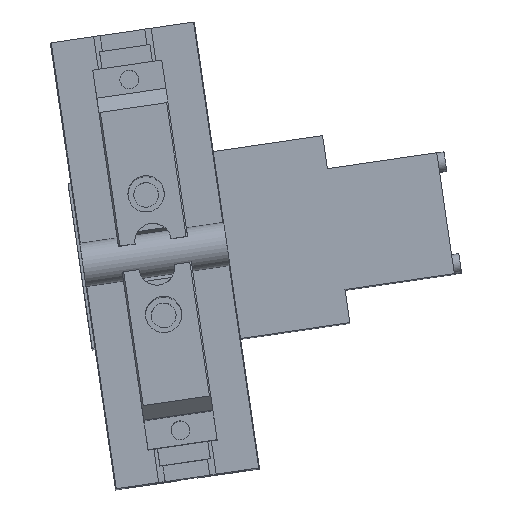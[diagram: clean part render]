
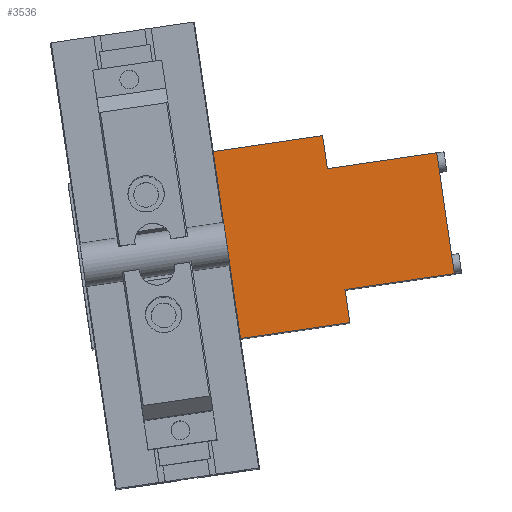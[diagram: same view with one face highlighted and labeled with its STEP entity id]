
A CAD part, top view. The second image highlights one B-rep face of the part: STEP entity #3536.
In plain terms, the highlighted planar face has unit normal (0, 0.005, 1).
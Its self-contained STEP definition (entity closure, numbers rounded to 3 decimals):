
#3439=CARTESIAN_POINT('',(195.801,123.6,198.16));
#3440=VERTEX_POINT('',#3439);
#3441=CARTESIAN_POINT('',(120.596,112.63,198.201));
#3442=VERTEX_POINT('',#3441);
#3443=CARTESIAN_POINT('',(195.801,123.6,198.16));
#3444=DIRECTION('',(-0.99,-0.144,0.001));
#3445=VECTOR('',#3444,76.);
#3446=LINE('',#3443,#3445);
#3447=EDGE_CURVE('',#3440,#3442,#3446,.T.);
#3474=CARTESIAN_POINT('',(195.801,123.6,198.16));
#3475=DIRECTION('',(0.,0.006,1.));
#3476=DIRECTION('',(-0.99,-0.144,0.001));
#3477=AXIS2_PLACEMENT_3D('',#3474,#3475,#3476);
#3478=PLANE('',#3477);
#3479=CARTESIAN_POINT('',(207.925,40.481,198.622));
#3480=VERTEX_POINT('',#3479);
#3481=CARTESIAN_POINT('',(132.721,29.511,198.662));
#3482=VERTEX_POINT('',#3481);
#3483=CARTESIAN_POINT('',(207.925,40.481,198.622));
#3484=DIRECTION('',(-0.99,-0.144,0.001));
#3485=VECTOR('',#3484,76.);
#3486=LINE('',#3483,#3485);
#3487=EDGE_CURVE('',#3480,#3482,#3486,.T.);
#3488=ORIENTED_EDGE('',*,*,#3487,.F.);
#3489=CARTESIAN_POINT('',(195.801,123.6,198.16));
#3490=DIRECTION('',(0.144,-0.99,0.005));
#3491=VECTOR('',#3490,84.);
#3492=LINE('',#3489,#3491);
#3493=EDGE_CURVE('',#3440,#3480,#3492,.T.);
#3494=ORIENTED_EDGE('',*,*,#3493,.F.);
#3495=ORIENTED_EDGE('',*,*,#3447,.T.);
#3496=CARTESIAN_POINT('',(117.277,135.389,198.074));
#3497=VERTEX_POINT('',#3496);
#3498=CARTESIAN_POINT('',(120.596,112.63,198.201));
#3499=DIRECTION('',(-0.144,0.99,-0.005));
#3500=VECTOR('',#3499,23.);
#3501=LINE('',#3498,#3500);
#3502=EDGE_CURVE('',#3442,#3497,#3501,.T.);
#3503=ORIENTED_EDGE('',*,*,#3502,.T.);
#3504=CARTESIAN_POINT('',(42.072,124.419,198.115));
#3505=VERTEX_POINT('',#3504);
#3506=CARTESIAN_POINT('',(42.072,124.419,198.115));
#3507=DIRECTION('',(0.99,0.144,-0.001));
#3508=VECTOR('',#3507,76.);
#3509=LINE('',#3506,#3508);
#3510=EDGE_CURVE('',#3505,#3497,#3509,.T.);
#3511=ORIENTED_EDGE('',*,*,#3510,.F.);
#3512=CARTESIAN_POINT('',(60.836,-4.217,198.829));
#3513=VERTEX_POINT('',#3512);
#3514=CARTESIAN_POINT('',(60.836,-4.217,198.829));
#3515=DIRECTION('',(-0.144,0.99,-0.005));
#3516=VECTOR('',#3515,130.);
#3517=LINE('',#3514,#3516);
#3518=EDGE_CURVE('',#3513,#3505,#3517,.T.);
#3519=ORIENTED_EDGE('',*,*,#3518,.F.);
#3520=CARTESIAN_POINT('',(136.041,6.752,198.789));
#3521=VERTEX_POINT('',#3520);
#3522=CARTESIAN_POINT('',(60.836,-4.217,198.829));
#3523=DIRECTION('',(0.99,0.144,-0.001));
#3524=VECTOR('',#3523,76.0);
#3525=LINE('',#3522,#3524);
#3526=EDGE_CURVE('',#3513,#3521,#3525,.T.);
#3527=ORIENTED_EDGE('',*,*,#3526,.T.);
#3528=CARTESIAN_POINT('',(136.041,6.752,198.789));
#3529=DIRECTION('',(-0.144,0.99,-0.005));
#3530=VECTOR('',#3529,23.);
#3531=LINE('',#3528,#3530);
#3532=EDGE_CURVE('',#3521,#3482,#3531,.T.);
#3533=ORIENTED_EDGE('',*,*,#3532,.T.);
#3534=EDGE_LOOP('',(#3488,#3494,#3495,#3503,#3511,#3519,#3527,#3533));
#3535=FACE_OUTER_BOUND('',#3534,.T.);
#3536=ADVANCED_FACE('',(#3535),#3478,.T.);
